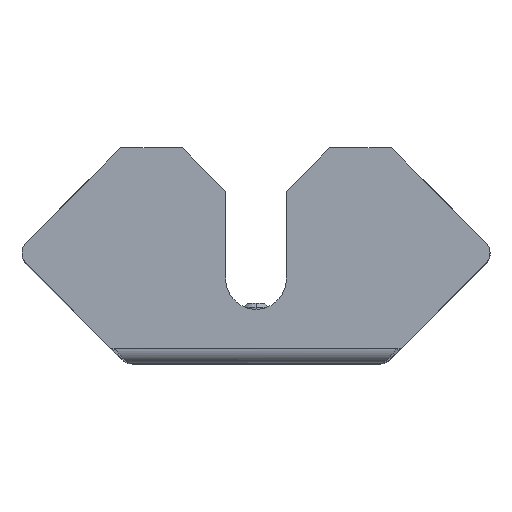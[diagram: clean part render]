
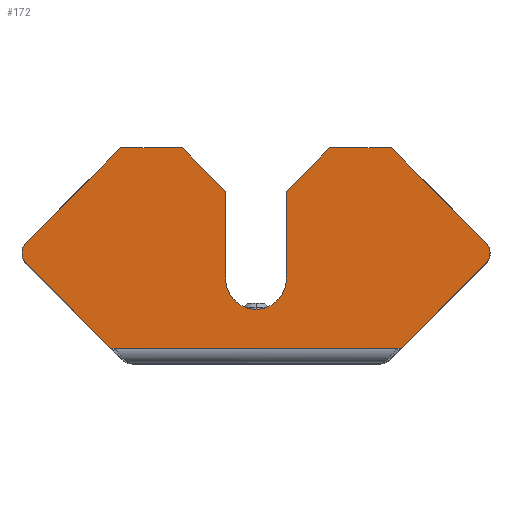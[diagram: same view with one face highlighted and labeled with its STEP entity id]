
A CAD part, top view. The second image highlights one B-rep face of the part: STEP entity #172.
In plain terms, the highlighted planar face has unit normal (0, 0, 1) as drawn and (0, 0, -1) by its records, which use the part's own axes.
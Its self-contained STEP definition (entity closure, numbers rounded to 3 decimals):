
#4 = ORIENTED_EDGE ( 'NONE', *, *, #3580, .T. ) ;
#56 = ORIENTED_EDGE ( 'NONE', *, *, #2571, .T. ) ;
#90 = VERTEX_POINT ( 'NONE', #1549 ) ;
#91 = CARTESIAN_POINT ( 'NONE',  ( 30.05, -3.5, -50. ) ) ;
#103 = DIRECTION ( 'NONE',  ( -0.707, -0.707, 0. ) ) ;
#132 = CARTESIAN_POINT ( 'NONE',  ( 30.318, -49.73, -50. ) ) ;
#152 = VERTEX_POINT ( 'NONE', #1421 ) ;
#161 = LINE ( 'NONE', #3504, #1991 ) ;
#172 = ADVANCED_FACE ( 'NONE', ( #3509 ), #1995, .T. ) ;
#207 = CARTESIAN_POINT ( 'NONE',  ( -17., -49.73, -50. ) ) ;
#208 = CARTESIAN_POINT ( 'NONE',  ( -50.54, -25.46, -50. ) ) ;
#221 = EDGE_CURVE ( 'NONE', #3803, #1119, #3321, .T. ) ;
#262 = VECTOR ( 'NONE', #3387, 1000. ) ;
#275 = EDGE_CURVE ( 'NONE', #2330, #3881, #1826, .T. ) ;
#315 = ORIENTED_EDGE ( 'NONE', *, *, #2885, .T. ) ;
#321 = CIRCLE ( 'NONE', #1496, 3.5 ) ;
#329 = ORIENTED_EDGE ( 'NONE', *, *, #366, .T. ) ;
#366 = EDGE_CURVE ( 'NONE', #945, #152, #1950, .T. ) ;
#392 = VECTOR ( 'NONE', #3189, 1000. ) ;
#474 = CARTESIAN_POINT ( 'NONE',  ( 7., -39.73, -50. ) ) ;
#483 = VECTOR ( 'NONE', #3190, 1000. ) ;
#539 = DIRECTION ( 'NONE',  ( -0.707, -0.707, 0. ) ) ;
#543 = EDGE_CURVE ( 'NONE', #1119, #3881, #161, .T. ) ;
#555 = ORIENTED_EDGE ( 'NONE', *, *, #543, .T. ) ;
#588 = AXIS2_PLACEMENT_3D ( 'NONE', #2566, #1355, #704 ) ;
#614 = EDGE_CURVE ( 'NONE', #3498, #2113, #1375, .T. ) ;
#621 = ORIENTED_EDGE ( 'NONE', *, *, #3723, .F. ) ;
#634 = EDGE_CURVE ( 'NONE', #2113, #1940, #2895, .T. ) ;
#636 = DIRECTION ( 'NONE',  ( 0., 0., 1. ) ) ;
#704 = DIRECTION ( 'NONE',  ( 0., 1., 0. ) ) ;
#730 = EDGE_CURVE ( 'NONE', #2328, #2698, #1106, .T. ) ;
#749 = EDGE_CURVE ( 'NONE', #1712, #1825, #3517, .T. ) ;
#833 = ORIENTED_EDGE ( 'NONE', *, *, #634, .T. ) ;
#842 = VECTOR ( 'NONE', #2574, 1000. ) ;
#852 = ORIENTED_EDGE ( 'NONE', *, *, #2238, .T. ) ;
#945 = VERTEX_POINT ( 'NONE', #1529 ) ;
#958 = EDGE_CURVE ( 'NONE', #152, #3498, #1980, .T. ) ;
#1006 = AXIS2_PLACEMENT_3D ( 'NONE', #3986, #636, #2810 ) ;
#1018 = CARTESIAN_POINT ( 'NONE',  ( -55.489, -25.46, -50. ) ) ;
#1039 = CARTESIAN_POINT ( 'NONE',  ( 55.489, -25.46, -50. ) ) ;
#1106 = LINE ( 'NONE', #3558, #2403 ) ;
#1119 = VERTEX_POINT ( 'NONE', #2153 ) ;
#1143 = DIRECTION ( 'NONE',  ( 0., 1., 0. ) ) ;
#1295 = VECTOR ( 'NONE', #3162, 1000. ) ;
#1345 = LINE ( 'NONE', #1039, #842 ) ;
#1355 = DIRECTION ( 'NONE',  ( 0., 0., -1. ) ) ;
#1375 = LINE ( 'NONE', #3778, #1746 ) ;
#1384 = CARTESIAN_POINT ( 'NONE',  ( 0., 0., -50. ) ) ;
#1388 = LINE ( 'NONE', #132, #483 ) ;
#1398 = VERTEX_POINT ( 'NONE', #2912 ) ;
#1421 = CARTESIAN_POINT ( 'NONE',  ( 32.51, -3.5, -50. ) ) ;
#1437 = EDGE_LOOP ( 'NONE', ( #2799, #852, #2357, #3345, #329, #1895, #3772, #833, #56, #621, #315, #3946, #4, #2766, #555, #3561 ) ) ;
#1496 = AXIS2_PLACEMENT_3D ( 'NONE', #208, #3933, #1143 ) ;
#1529 = CARTESIAN_POINT ( 'NONE',  ( -32.51, -3.5, -50. ) ) ;
#1549 = CARTESIAN_POINT ( 'NONE',  ( 31.22, -49.73, -50. ) ) ;
#1561 = VECTOR ( 'NONE', #539, 1000. ) ;
#1712 = VERTEX_POINT ( 'NONE', #2123 ) ;
#1713 = DIRECTION ( 'NONE',  ( -1., 0., 0. ) ) ;
#1744 = CARTESIAN_POINT ( 'NONE',  ( -7., -19.469, -50. ) ) ;
#1746 = VECTOR ( 'NONE', #2263, 1000. ) ;
#1772 = CARTESIAN_POINT ( 'NONE',  ( -33.529, -3.5, -50. ) ) ;
#1825 = VERTEX_POINT ( 'NONE', #2045 ) ;
#1826 = LINE ( 'NONE', #2965, #2329 ) ;
#1895 = ORIENTED_EDGE ( 'NONE', *, *, #958, .T. ) ;
#1940 = VERTEX_POINT ( 'NONE', #2990 ) ;
#1946 = VECTOR ( 'NONE', #1713, 1000. ) ;
#1950 = LINE ( 'NONE', #2009, #1295 ) ;
#1980 = LINE ( 'NONE', #91, #392 ) ;
#1991 = VECTOR ( 'NONE', #103, 1000. ) ;
#1995 = PLANE ( 'NONE',  #3264 ) ;
#2009 = CARTESIAN_POINT ( 'NONE',  ( 0., -3.5, -50. ) ) ;
#2040 = LINE ( 'NONE', #2739, #262 ) ;
#2045 = CARTESIAN_POINT ( 'NONE',  ( -53.014, -22.986, -50. ) ) ;
#2067 = DIRECTION ( 'NONE',  ( 0., -1., 0. ) ) ;
#2113 = VERTEX_POINT ( 'NONE', #2414 ) ;
#2123 = CARTESIAN_POINT ( 'NONE',  ( -33.529, -3.5, -50. ) ) ;
#2153 = CARTESIAN_POINT ( 'NONE',  ( -7., -39.73, -50. ) ) ;
#2238 = EDGE_CURVE ( 'NONE', #1398, #1825, #321, .T. ) ;
#2263 = DIRECTION ( 'NONE',  ( 0.707, -0.707, 0. ) ) ;
#2286 = EDGE_CURVE ( 'NONE', #945, #1712, #3872, .T. ) ;
#2328 = VERTEX_POINT ( 'NONE', #474 ) ;
#2329 = VECTOR ( 'NONE', #3639, 1000. ) ;
#2330 = VERTEX_POINT ( 'NONE', #3246 ) ;
#2357 = ORIENTED_EDGE ( 'NONE', *, *, #749, .F. ) ;
#2403 = VECTOR ( 'NONE', #3600, 1000. ) ;
#2414 = CARTESIAN_POINT ( 'NONE',  ( 53.014, -22.986, -50. ) ) ;
#2418 = CARTESIAN_POINT ( 'NONE',  ( 7., -19.469, -50. ) ) ;
#2505 = EDGE_CURVE ( 'NONE', #1398, #2330, #3442, .T. ) ;
#2566 = CARTESIAN_POINT ( 'NONE',  ( 50.54, -25.46, -50. ) ) ;
#2571 = EDGE_CURVE ( 'NONE', #1940, #90, #1345, .T. ) ;
#2574 = DIRECTION ( 'NONE',  ( -0.707, -0.707, 0. ) ) ;
#2618 = DIRECTION ( 'NONE',  ( 0., 0., -1. ) ) ;
#2633 = DIRECTION ( 'NONE',  ( 0., 1., 0. ) ) ;
#2698 = VERTEX_POINT ( 'NONE', #2418 ) ;
#2739 = CARTESIAN_POINT ( 'NONE',  ( -16.365, -16.365, -50. ) ) ;
#2766 = ORIENTED_EDGE ( 'NONE', *, *, #221, .T. ) ;
#2799 = ORIENTED_EDGE ( 'NONE', *, *, #2505, .F. ) ;
#2810 = DIRECTION ( 'NONE',  ( 1., 0., 0. ) ) ;
#2885 = EDGE_CURVE ( 'NONE', #3737, #2328, #2040, .T. ) ;
#2887 = CARTESIAN_POINT ( 'NONE',  ( -7., -19.469, -50. ) ) ;
#2895 = CIRCLE ( 'NONE', #588, 3.5 ) ;
#2912 = CARTESIAN_POINT ( 'NONE',  ( -53.014, -27.935, -50. ) ) ;
#2923 = CIRCLE ( 'NONE', #1006, 7. ) ;
#2965 = CARTESIAN_POINT ( 'NONE',  ( 30.318, -49.73, -50. ) ) ;
#2990 = CARTESIAN_POINT ( 'NONE',  ( 53.014, -27.935, -50. ) ) ;
#2992 = CARTESIAN_POINT ( 'NONE',  ( 33.529, -3.5, -50. ) ) ;
#3162 = DIRECTION ( 'NONE',  ( 1., 0., 0. ) ) ;
#3189 = DIRECTION ( 'NONE',  ( 1., 0., 0. ) ) ;
#3190 = DIRECTION ( 'NONE',  ( 1., 0., 0. ) ) ;
#3246 = CARTESIAN_POINT ( 'NONE',  ( -31.22, -49.73, -50. ) ) ;
#3264 = AXIS2_PLACEMENT_3D ( 'NONE', #1384, #2618, #2633 ) ;
#3273 = VECTOR ( 'NONE', #3486, 1000. ) ;
#3321 = LINE ( 'NONE', #1744, #3808 ) ;
#3345 = ORIENTED_EDGE ( 'NONE', *, *, #2286, .F. ) ;
#3387 = DIRECTION ( 'NONE',  ( -0.707, 0.707, 0. ) ) ;
#3442 = LINE ( 'NONE', #1018, #3273 ) ;
#3486 = DIRECTION ( 'NONE',  ( 0.707, -0.707, 0. ) ) ;
#3498 = VERTEX_POINT ( 'NONE', #2992 ) ;
#3504 = CARTESIAN_POINT ( 'NONE',  ( 16.365, -16.365, -50. ) ) ;
#3509 = FACE_OUTER_BOUND ( 'NONE', #1437, .T. ) ;
#3517 = LINE ( 'NONE', #1772, #1561 ) ;
#3558 = CARTESIAN_POINT ( 'NONE',  ( 7., -19.469, -50. ) ) ;
#3561 = ORIENTED_EDGE ( 'NONE', *, *, #275, .F. ) ;
#3580 = EDGE_CURVE ( 'NONE', #2698, #3803, #2923, .T. ) ;
#3600 = DIRECTION ( 'NONE',  ( 0., 1., 0. ) ) ;
#3639 = DIRECTION ( 'NONE',  ( 1., 0., 0. ) ) ;
#3723 = EDGE_CURVE ( 'NONE', #3737, #90, #1388, .T. ) ;
#3737 = VERTEX_POINT ( 'NONE', #3855 ) ;
#3772 = ORIENTED_EDGE ( 'NONE', *, *, #614, .T. ) ;
#3778 = CARTESIAN_POINT ( 'NONE',  ( 33.529, -3.5, -50. ) ) ;
#3803 = VERTEX_POINT ( 'NONE', #2887 ) ;
#3808 = VECTOR ( 'NONE', #2067, 1000. ) ;
#3855 = CARTESIAN_POINT ( 'NONE',  ( 17., -49.73, -50. ) ) ;
#3872 = LINE ( 'NONE', #3893, #1946 ) ;
#3881 = VERTEX_POINT ( 'NONE', #207 ) ;
#3893 = CARTESIAN_POINT ( 'NONE',  ( -30.05, -3.5, -50. ) ) ;
#3933 = DIRECTION ( 'NONE',  ( 0., 0., -1. ) ) ;
#3946 = ORIENTED_EDGE ( 'NONE', *, *, #730, .T. ) ;
#3986 = CARTESIAN_POINT ( 'NONE',  ( 0., -19.469, -50. ) ) ;
